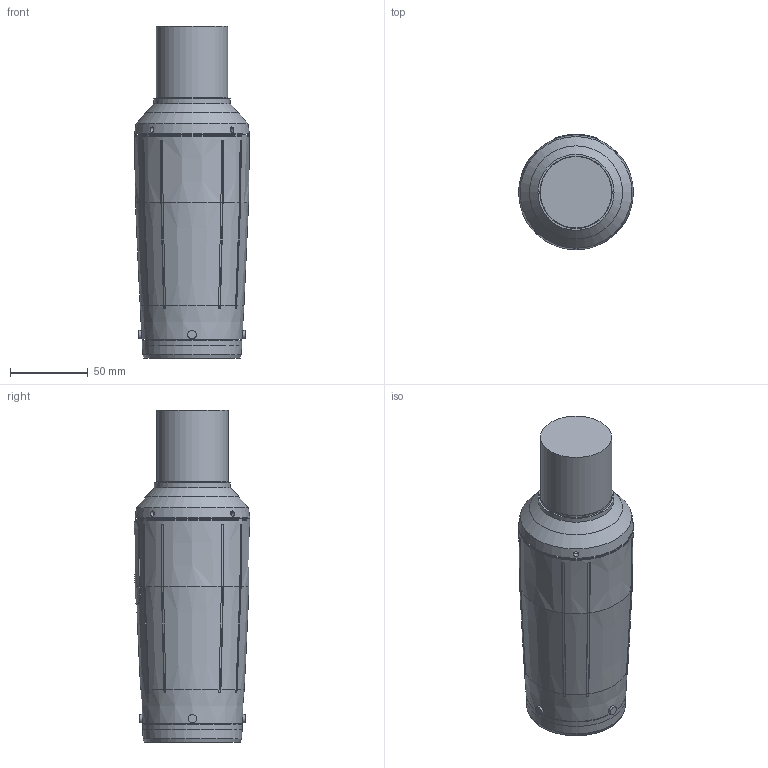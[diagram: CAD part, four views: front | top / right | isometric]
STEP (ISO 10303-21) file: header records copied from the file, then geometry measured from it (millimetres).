
FILE_DESCRIPTION(('FreeCAD Model'),'2;1');
FILE_NAME('Open CASCADE Shape Model','2026-09-19T18:07:28',('FreeCAD'),( 'FreeCAD'),'Open CASCADE STEP processor 7.8','FreeCAD','Unknown');
FILE_SCHEMA(('AUTOMOTIVE_DESIGN { 1 0 10303 214 1 1 1 1 }'));
Length unit declared in the file: millimetre
Products named in the file (1): Open CASCADE STEP translator 7.8 12
Bounding box: 74 x 74.56 x 214 mm (x, y, z)
Volume: 375414.7 mm3; surface area: 200856.5 mm2
Topology: 52 solids, 56 shells, 697 faces, 1739 edges, 1182 vertices
Faces by surface type: plane 400, cylinder 223, cone 62, torus 12
Full cylindrical faces by diameter (mm): 2.2 x8, 2.6 x8, 2.8 x16, 2.9 x4, 3.1 x4, 3.2 x4, 3.4 x32, 4 x12, 4.2 x4, 4.3 x12, 4.4 x4, 4.5 x16, 5 x8, 5.5 x4, 6 x8, 6.4 x4, 9 x4, 15.875 x1, 16 x1, 17 x3, 24 x1, 45.6 x1, 46 x1, 46.6 x1, 49 x1, 50.8 x3, 57 x1, 57.7 x1, 61.3 x1, 66.9 x1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
Entity records: 27363 total; most frequent: CARTESIAN_POINT 9786, DIRECTION 3653, ORIENTED_EDGE 3478, EDGE_CURVE 1739, AXIS2_PLACEMENT_3D 1339, VERTEX_POINT 1182, FACE_BOUND 977, EDGE_LOOP 977
